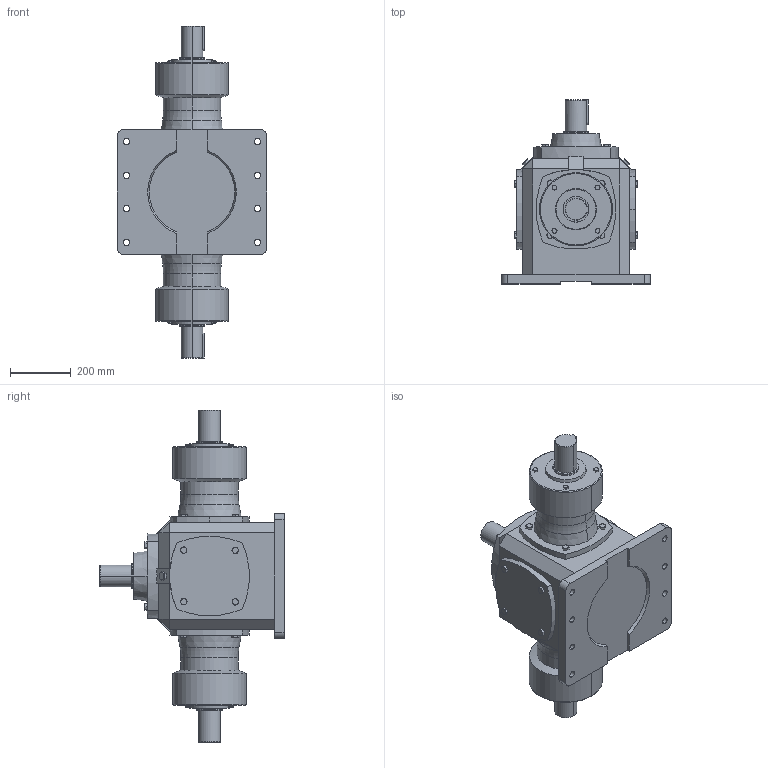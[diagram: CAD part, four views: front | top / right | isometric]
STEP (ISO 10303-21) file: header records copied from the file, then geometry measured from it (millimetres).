
FILE_DESCRIPTION (( 'STEP AP203' ), '1' );
FILE_NAME ('TC20-1-WSXH1-F2.step', '2018-07-14T07:41:07', ( 'IT Division' ), ( 'IT' ), 'SwSTEP 2.0', 'SolidWorks 2016', '' );
FILE_SCHEMA (( 'CONFIG_CONTROL_DESIGN' ));
Length unit declared in the file: millimetre
Products named in the file (1): TC20-1-WSXH1-F2
Bounding box: 490 x 605 x 1090 mm (x, y, z)
Volume: 78079729 mm3; surface area: 1828012 mm2
Topology: 3 solids, 3 shells, 603 faces, 1418 edges, 862 vertices
Faces by surface type: plane 286, cone 234, cylinder 75, torus 8
Entity records: 18738 total; most frequent: CARTESIAN_POINT 5319, ORIENTED_EDGE 2836, DIRECTION 2646, EDGE_CURVE 1418, AXIS2_PLACEMENT_3D 1009, VERTEX_POINT 862, EDGE_LOOP 660, VECTOR 628
